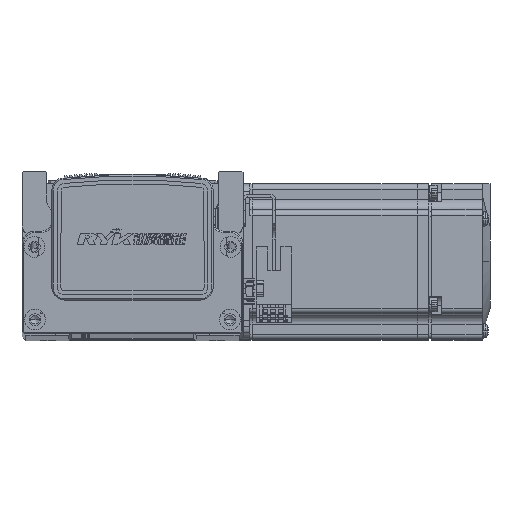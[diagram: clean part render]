
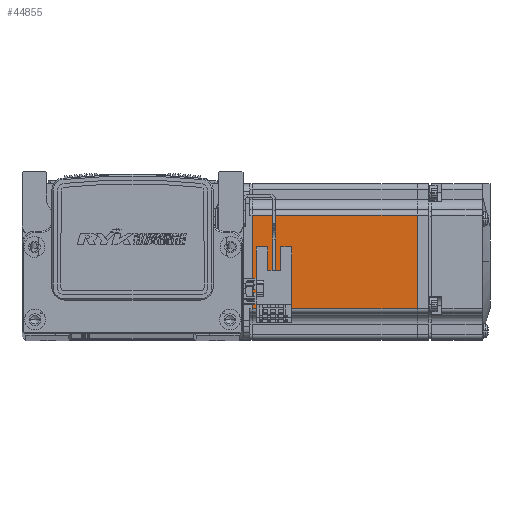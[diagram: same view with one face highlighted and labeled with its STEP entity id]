
A CAD part, top view. The second image highlights one B-rep face of the part: STEP entity #44855.
In plain terms, the highlighted planar face has unit normal (0, 0, 1) as drawn and (0, 0, -1) by its records, which use the part's own axes.
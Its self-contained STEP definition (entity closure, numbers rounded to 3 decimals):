
#6173 = AXIS2_PLACEMENT_3D ( 'NONE', #56591, #56575, #56593 ) ;
#19925 = EDGE_CURVE ( 'NONE', #24336, #24226, #69375, .T. ) ;
#19934 = EDGE_CURVE ( 'NONE', #24343, #24336, #69365, .T. ) ;
#19952 = EDGE_CURVE ( 'NONE', #24365, #24343, #69437, .T. ) ;
#20059 = EDGE_CURVE ( 'NONE', #24226, #24365, #69467, .T. ) ;
#24226 = VERTEX_POINT ( 'NONE', #60575 ) ;
#24336 = VERTEX_POINT ( 'NONE', #60722 ) ;
#24343 = VERTEX_POINT ( 'NONE', #60697 ) ;
#24365 = VERTEX_POINT ( 'NONE', #60690 ) ;
#44855 = ADVANCED_FACE ( 'NONE', ( #52026 ), #56567, .T. ) ;
#52026 = FACE_OUTER_BOUND ( 'NONE', #73399, .T. ) ;
#53158 = CARTESIAN_POINT ( 'NONE',  ( -6.5, -18., -30. ) ) ;
#53163 = DIRECTION ( 'NONE',  ( -1., 0., 0. ) ) ;
#53170 = CARTESIAN_POINT ( 'NONE',  ( -70.95, 25., -30. ) ) ;
#53177 = DIRECTION ( 'NONE',  ( 1., 0., 0. ) ) ;
#53232 = DIRECTION ( 'NONE',  ( 0., 1., 0. ) ) ;
#53236 = CARTESIAN_POINT ( 'NONE',  ( -6.5, 18., -30. ) ) ;
#53454 = DIRECTION ( 'NONE',  ( 0., -1., 0. ) ) ;
#53499 = CARTESIAN_POINT ( 'NONE',  ( -7.75, 25., -30. ) ) ;
#56567 = PLANE ( 'NONE',  #6173 ) ;
#56575 = DIRECTION ( 'NONE',  ( 0., 0., -1. ) ) ;
#56591 = CARTESIAN_POINT ( 'NONE',  ( -6.5, 25., -30. ) ) ;
#56593 = DIRECTION ( 'NONE',  ( -1., 0., 0. ) ) ;
#60575 = CARTESIAN_POINT ( 'NONE',  ( -7.75, 18., -30. ) ) ;
#60690 = CARTESIAN_POINT ( 'NONE',  ( -7.75, -18., -30. ) ) ;
#60697 = CARTESIAN_POINT ( 'NONE',  ( -70.95, -18., -30. ) ) ;
#60722 = CARTESIAN_POINT ( 'NONE',  ( -70.95, 18., -30. ) ) ;
#62981 = ORIENTED_EDGE ( 'NONE', *, *, #20059, .T. ) ;
#63007 = ORIENTED_EDGE ( 'NONE', *, *, #19934, .T. ) ;
#63023 = ORIENTED_EDGE ( 'NONE', *, *, #19925, .T. ) ;
#63027 = ORIENTED_EDGE ( 'NONE', *, *, #19952, .T. ) ;
#69327 = VECTOR ( 'NONE', #53232, 1000. ) ;
#69330 = VECTOR ( 'NONE', #53177, 1000. ) ;
#69365 = LINE ( 'NONE', #53170, #69327 ) ;
#69375 = LINE ( 'NONE', #53236, #69330 ) ;
#69391 = VECTOR ( 'NONE', #53163, 1000. ) ;
#69437 = LINE ( 'NONE', #53158, #69391 ) ;
#69443 = VECTOR ( 'NONE', #53454, 1000. ) ;
#69467 = LINE ( 'NONE', #53499, #69443 ) ;
#73399 = EDGE_LOOP ( 'NONE', ( #62981, #63027, #63007, #63023 ) ) ;
